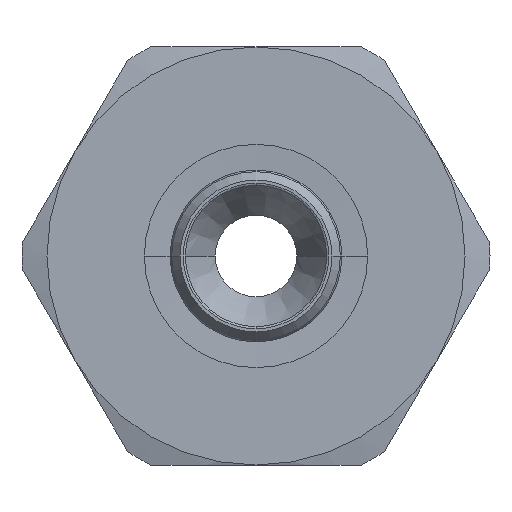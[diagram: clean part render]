
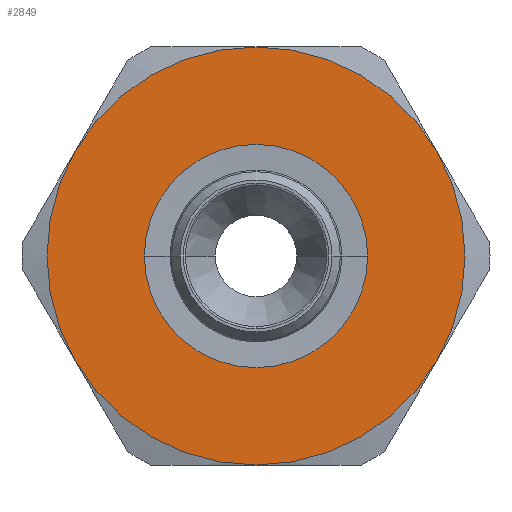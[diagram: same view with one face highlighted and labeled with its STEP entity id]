
A CAD part, left-side view. The second image highlights one B-rep face of the part: STEP entity #2849.
In plain terms, the highlighted planar face has unit normal (-1, 0, 0) as drawn and (0, 0, 1) by its records, which use the part's own axes.
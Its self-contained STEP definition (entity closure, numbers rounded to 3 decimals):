
#1176=CARTESIAN_POINT('',(0.,-10.95,5.));
#1177=VERTEX_POINT('',#1176);
#1193=CARTESIAN_POINT('',(0.,10.95,5.0));
#1194=VERTEX_POINT('',#1193);
#1201=CARTESIAN_POINT('',(0.,0.,5.0));
#1202=DIRECTION('',(0.0,0.0,-1.0));
#1203=DIRECTION('',(0.0,-1.0,0.0));
#1204=AXIS2_PLACEMENT_3D('',#1201,#1202,#1203);
#1205=CIRCLE('',#1204,10.95);
#1206=EDGE_CURVE('',#1177,#1194,#1205,.T.);
#1663=CARTESIAN_POINT('',(0.,0.,5.0));
#1664=DIRECTION('',(0.0,0.0,-1.0));
#1665=DIRECTION('',(0.0,-1.0,0.0));
#1666=AXIS2_PLACEMENT_3D('',#1663,#1664,#1665);
#1667=CIRCLE('',#1666,10.95);
#1668=EDGE_CURVE('',#1194,#1177,#1667,.T.);
#2222=CARTESIAN_POINT('',(10.25,-17.754,5.0));
#2223=VERTEX_POINT('',#2222);
#2237=CARTESIAN_POINT('',(-10.25,-17.754,5.0));
#2238=VERTEX_POINT('',#2237);
#2239=CARTESIAN_POINT('',(0.,0.0,5.0));
#2240=DIRECTION('',(0.0,0.0,1.0));
#2241=DIRECTION('',(1.0,0.0,0.0));
#2242=AXIS2_PLACEMENT_3D('',#2239,#2240,#2241);
#2243=CIRCLE('',#2242,20.5);
#2244=EDGE_CURVE('',#2238,#2223,#2243,.T.);
#2322=CARTESIAN_POINT('',(-20.5,0.,5.0));
#2323=VERTEX_POINT('',#2322);
#2324=CARTESIAN_POINT('',(0.,0.0,5.0));
#2325=DIRECTION('',(0.0,0.0,1.0));
#2326=DIRECTION('',(1.0,0.0,0.0));
#2327=AXIS2_PLACEMENT_3D('',#2324,#2325,#2326);
#2328=CIRCLE('',#2327,20.5);
#2329=EDGE_CURVE('',#2323,#2238,#2328,.T.);
#2406=CARTESIAN_POINT('',(-10.25,17.754,5.0));
#2407=VERTEX_POINT('',#2406);
#2408=CARTESIAN_POINT('',(0.,0.0,5.0));
#2409=DIRECTION('',(0.0,0.0,1.0));
#2410=DIRECTION('',(1.0,0.0,0.0));
#2411=AXIS2_PLACEMENT_3D('',#2408,#2409,#2410);
#2412=CIRCLE('',#2411,20.5);
#2413=EDGE_CURVE('',#2407,#2323,#2412,.T.);
#2490=CARTESIAN_POINT('',(10.25,17.754,5.0));
#2491=VERTEX_POINT('',#2490);
#2492=CARTESIAN_POINT('',(0.,0.0,5.0));
#2493=DIRECTION('',(0.0,0.0,1.0));
#2494=DIRECTION('',(1.0,0.0,0.0));
#2495=AXIS2_PLACEMENT_3D('',#2492,#2493,#2494);
#2496=CIRCLE('',#2495,20.5);
#2497=EDGE_CURVE('',#2491,#2407,#2496,.T.);
#2575=CARTESIAN_POINT('',(20.5,0.0,5.0));
#2576=VERTEX_POINT('',#2575);
#2577=CARTESIAN_POINT('',(0.,0.0,5.0));
#2578=DIRECTION('',(0.0,0.0,1.0));
#2579=DIRECTION('',(1.0,0.0,0.0));
#2580=AXIS2_PLACEMENT_3D('',#2577,#2578,#2579);
#2581=CIRCLE('',#2580,20.5);
#2582=EDGE_CURVE('',#2576,#2491,#2581,.T.);
#2659=CARTESIAN_POINT('',(0.,0.0,5.0));
#2660=DIRECTION('',(0.0,0.0,1.0));
#2661=DIRECTION('',(1.0,0.0,0.0));
#2662=AXIS2_PLACEMENT_3D('',#2659,#2660,#2661);
#2663=CIRCLE('',#2662,20.5);
#2664=EDGE_CURVE('',#2223,#2576,#2663,.T.);
#2832=CARTESIAN_POINT('',(0.,0.,5.0));
#2833=DIRECTION('',(0.0,0.0,1.0));
#2834=DIRECTION('',(1.0,0.0,0.0));
#2835=AXIS2_PLACEMENT_3D('',#2832,#2833,#2834);
#2836=PLANE('',#2835);
#2837=ORIENTED_EDGE('',*,*,#2664,.T.);
#2838=ORIENTED_EDGE('',*,*,#2582,.T.);
#2839=ORIENTED_EDGE('',*,*,#2497,.T.);
#2840=ORIENTED_EDGE('',*,*,#2413,.T.);
#2841=ORIENTED_EDGE('',*,*,#2329,.T.);
#2842=ORIENTED_EDGE('',*,*,#2244,.T.);
#2843=EDGE_LOOP('',(#2837,#2838,#2839,#2840,#2841,#2842));
#2844=FACE_OUTER_BOUND('',#2843,.T.);
#2845=ORIENTED_EDGE('',*,*,#1206,.T.);
#2846=ORIENTED_EDGE('',*,*,#1668,.T.);
#2847=EDGE_LOOP('',(#2845,#2846));
#2848=FACE_BOUND('',#2847,.T.);
#2849=ADVANCED_FACE('',(#2844,#2848),#2836,.T.);
